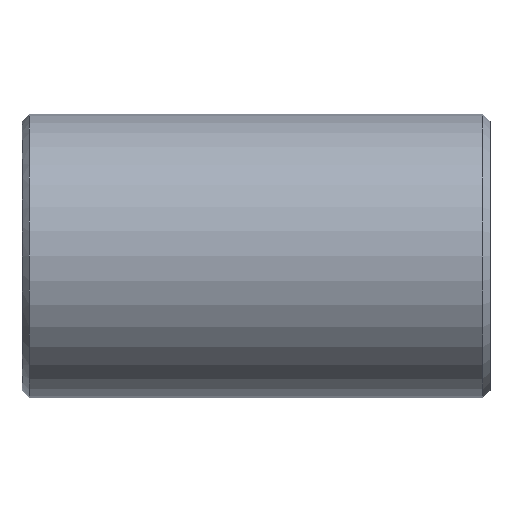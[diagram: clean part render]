
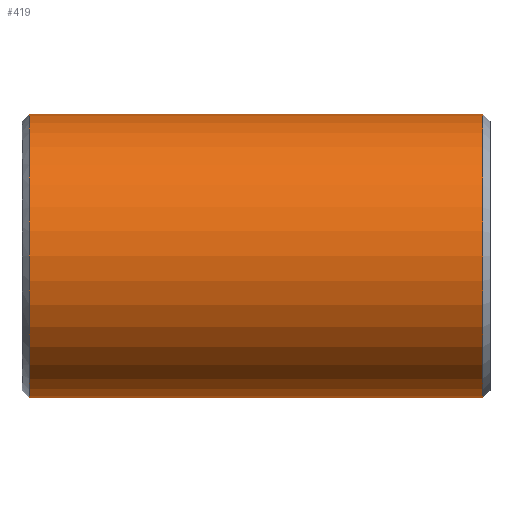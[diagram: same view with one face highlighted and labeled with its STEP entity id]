
A CAD part, front view. The second image highlights one B-rep face of the part: STEP entity #419.
In plain terms, the highlighted cylindrical face has radius 20 mm (diameter 40 mm), a partial arc.
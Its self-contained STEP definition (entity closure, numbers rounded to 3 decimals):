
#231=CARTESIAN_POINT('Vertex',(1.,0.,-20.)) ;
#238=CARTESIAN_POINT('Vertex',(1.,0.,20.)) ;
#267=CARTESIAN_POINT('Axis2P3D Location',(1.,0.,0.)) ;
#271=CARTESIAN_POINT('Vertex',(1.,-20.,0.)) ;
#274=CARTESIAN_POINT('Axis2P3D Location',(1.,0.,0.)) ;
#359=CARTESIAN_POINT('Line Origine',(66.,0.,20.)) ;
#363=CARTESIAN_POINT('Vertex',(65.,0.,20.)) ;
#377=CARTESIAN_POINT('Vertex',(65.,0.,-20.)) ;
#380=CARTESIAN_POINT('Line Origine',(66.,0.,-20.)) ;
#394=CARTESIAN_POINT('Axis2P3D Location',(66.,0.,0.)) ;
#399=CARTESIAN_POINT('Axis2P3D Location',(65.,0.,0.)) ;
#403=CARTESIAN_POINT('Vertex',(65.,-20.,0.)) ;
#406=CARTESIAN_POINT('Axis2P3D Location',(65.,0.,0.)) ;
#268=DIRECTION('Axis2P3D Direction',(1.,0.,-0.)) ;
#275=DIRECTION('Axis2P3D Direction',(1.,0.,-0.)) ;
#360=DIRECTION('Vector Direction',(-1.,0.,0.)) ;
#381=DIRECTION('Vector Direction',(-1.,0.,0.)) ;
#395=DIRECTION('Axis2P3D Direction',(-1.,-0.,-0.)) ;
#396=DIRECTION('Axis2P3D XDirection',(0.,0.,-1.)) ;
#400=DIRECTION('Axis2P3D Direction',(-1.,-0.,-0.)) ;
#407=DIRECTION('Axis2P3D Direction',(-1.,-0.,-0.)) ;
#269=AXIS2_PLACEMENT_3D('Circle Axis2P3D',#267,#268,$) ;
#276=AXIS2_PLACEMENT_3D('Circle Axis2P3D',#274,#275,$) ;
#397=AXIS2_PLACEMENT_3D('Cylinder Axis2P3D',#394,#395,#396) ;
#401=AXIS2_PLACEMENT_3D('Circle Axis2P3D',#399,#400,$) ;
#408=AXIS2_PLACEMENT_3D('Circle Axis2P3D',#406,#407,$) ;
#412=ORIENTED_EDGE('',*,*,#384,.T.) ;
#413=ORIENTED_EDGE('',*,*,#405,.F.) ;
#414=ORIENTED_EDGE('',*,*,#410,.F.) ;
#415=ORIENTED_EDGE('',*,*,#365,.T.) ;
#416=ORIENTED_EDGE('',*,*,#278,.T.) ;
#417=ORIENTED_EDGE('',*,*,#273,.T.) ;
#361=VECTOR('Line Direction',#360,1.) ;
#382=VECTOR('Line Direction',#381,1.) ;
#419=ADVANCED_FACE('352-32X66',(#418),#398,.T.) ;
#270=CIRCLE('generated circle',#269,20.) ;
#277=CIRCLE('generated circle',#276,20.) ;
#402=CIRCLE('generated circle',#401,20.) ;
#409=CIRCLE('generated circle',#408,20.) ;
#398=CYLINDRICAL_SURFACE('generated cylinder',#397,20.) ;
#273=EDGE_CURVE('',#272,#232,#270,.T.) ;
#278=EDGE_CURVE('',#239,#272,#277,.T.) ;
#365=EDGE_CURVE('',#364,#239,#362,.T.) ;
#384=EDGE_CURVE('',#232,#378,#383,.F.) ;
#405=EDGE_CURVE('',#404,#378,#402,.F.) ;
#410=EDGE_CURVE('',#364,#404,#409,.F.) ;
#411=EDGE_LOOP('',(#412,#413,#414,#415,#416,#417)) ;
#418=FACE_OUTER_BOUND('',#411,.T.) ;
#362=LINE('Line',#359,#361) ;
#383=LINE('Line',#380,#382) ;
#232=VERTEX_POINT('',#231) ;
#239=VERTEX_POINT('',#238) ;
#272=VERTEX_POINT('',#271) ;
#364=VERTEX_POINT('',#363) ;
#378=VERTEX_POINT('',#377) ;
#404=VERTEX_POINT('',#403) ;
